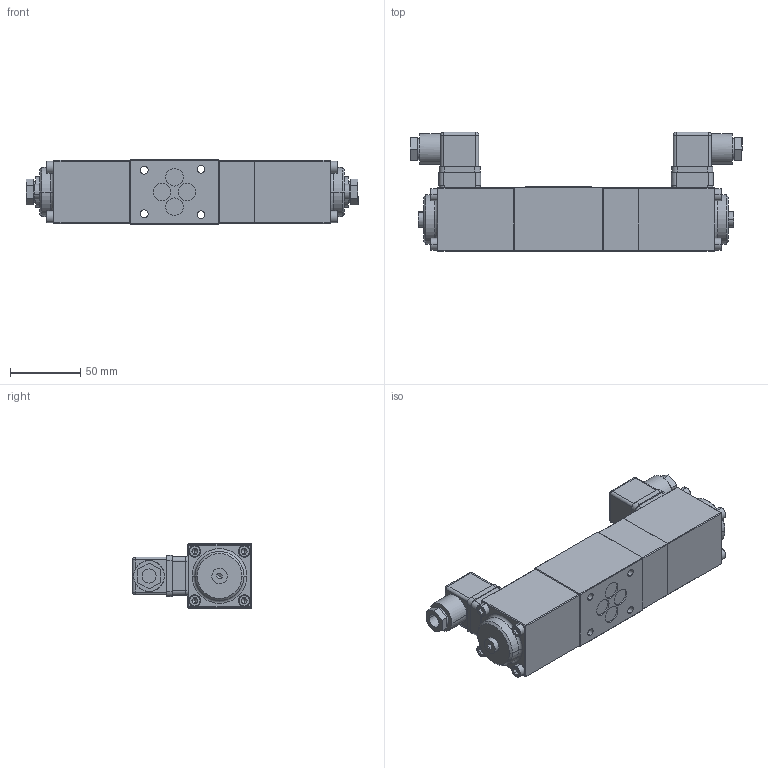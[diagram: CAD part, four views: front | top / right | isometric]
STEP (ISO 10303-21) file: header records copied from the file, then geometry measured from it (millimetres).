
FILE_DESCRIPTION (( 'STEP AP214' ), '1' );
FILE_NAME ('A.2206rb.STEP', '2024-02-15T12:20:42', ( '' ), ( '' ), 'SwSTEP 2.0', 'SolidWorks 2022', '' );
FILE_SCHEMA (( 'AUTOMOTIVE_DESIGN' ));
Length unit declared in the file: millimetre
Products named in the file (1): A.2206rb
Bounding box: 237 x 85.3 x 46 mm (x, y, z)
Volume: 493807.1 mm3; surface area: 60228.5 mm2
Topology: 1 solids, 1 shells, 523 faces, 1242 edges, 750 vertices
Faces by surface type: plane 339, cylinder 118, cone 32, torus 20, bspline 14
Entity records: 20837 total; most frequent: CARTESIAN_POINT 3106, DIRECTION 2560, ORIENTED_EDGE 2428, EDGE_CURVE 1214, AXIS2_PLACEMENT_3D 868, VECTOR 824, LINE 824, VERTEX_POINT 750
